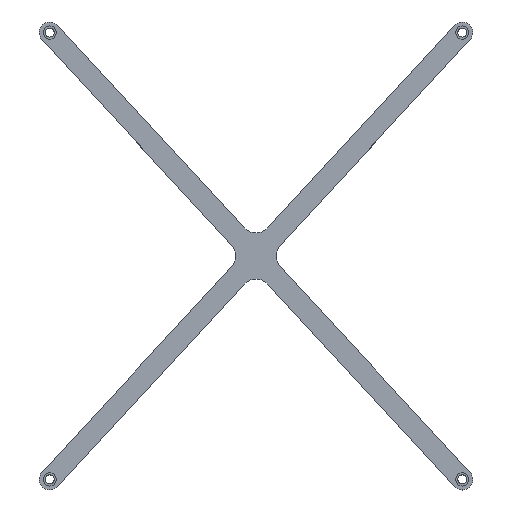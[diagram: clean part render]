
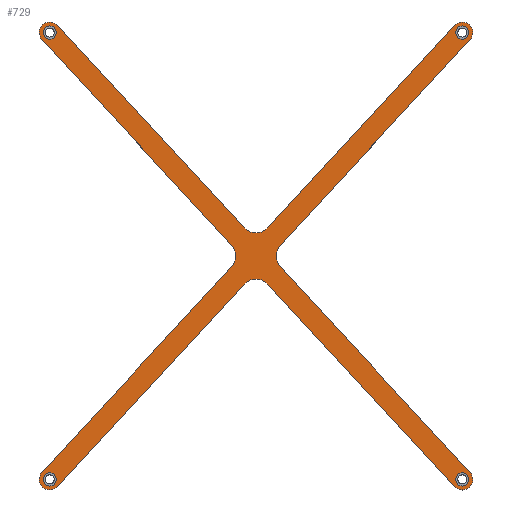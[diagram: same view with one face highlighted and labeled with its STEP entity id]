
A CAD part, top view. The second image highlights one B-rep face of the part: STEP entity #729.
In plain terms, the highlighted planar face has unit normal (0, 0, 1).
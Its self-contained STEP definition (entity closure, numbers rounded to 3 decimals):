
#107=CARTESIAN_POINT('',(-6.804,0.,2.));
#108=DIRECTION('',(0.,0.,-1.));
#109=DIRECTION('',(0.735,0.678,0.));
#110=AXIS2_PLACEMENT_3D('',#107,#108,#109);
#116=DIRECTION('',(-0.678,-0.735,0.));
#117=VECTOR('',#116,52.883);
#118=CARTESIAN_POINT('',(-4.599,-2.035,2.));
#119=LINE('',#118,#117);
#120=DIRECTION('',(0.678,-0.735,0.));
#121=VECTOR('',#120,52.883);
#122=CARTESIAN_POINT('',(-40.469,40.893,2.));
#123=LINE('',#122,#121);
#124=CARTESIAN_POINT('',(-38.999,42.25,2.));
#125=DIRECTION('',(0.,0.,1.));
#126=DIRECTION('',(0.735,0.678,0.));
#127=AXIS2_PLACEMENT_3D('',#124,#125,#126);
#129=DIRECTION('',(-0.678,0.735,0.));
#130=VECTOR('',#129,52.081);
#131=CARTESIAN_POINT('',(-2.204,5.337,2.));
#132=LINE('',#131,#130);
#133=DIRECTION('',(-0.678,-0.735,0.));
#134=VECTOR('',#133,52.082);
#135=CARTESIAN_POINT('',(37.531,43.607,2.));
#136=LINE('',#135,#134);
#137=CARTESIAN_POINT('',(39.001,42.25,2.));
#138=DIRECTION('',(0.,0.,1.));
#139=DIRECTION('',(0.735,-0.678,0.));
#140=AXIS2_PLACEMENT_3D('',#137,#138,#139);
#142=DIRECTION('',(0.678,0.735,0.));
#143=VECTOR('',#142,52.883);
#144=CARTESIAN_POINT('',(4.6,2.035,2.));
#145=LINE('',#144,#143);
#146=DIRECTION('',(-0.678,0.735,0.));
#147=VECTOR('',#146,52.883);
#148=CARTESIAN_POINT('',(40.47,-40.893,2.));
#149=LINE('',#148,#147);
#150=CARTESIAN_POINT('',(39.,-42.25,2.));
#151=DIRECTION('',(0.,0.,1.));
#152=DIRECTION('',(-0.735,-0.678,0.));
#153=AXIS2_PLACEMENT_3D('',#150,#151,#152);
#155=DIRECTION('',(0.678,-0.735,0.));
#156=VECTOR('',#155,52.082);
#157=CARTESIAN_POINT('',(2.204,-5.337,2.));
#158=LINE('',#157,#156);
#159=DIRECTION('',(0.678,0.735,0.));
#160=VECTOR('',#159,52.081);
#161=CARTESIAN_POINT('',(-37.53,-43.606,2.));
#162=LINE('',#161,#160);
#163=CARTESIAN_POINT('',(-39.,-42.249,2.));
#164=DIRECTION('',(0.,0.,1.));
#165=DIRECTION('',(-0.735,0.678,0.));
#166=AXIS2_PLACEMENT_3D('',#163,#164,#165);
#168=CARTESIAN_POINT('',(39.,42.25,2.));
#169=DIRECTION('',(0.,0.,-1.));
#170=DIRECTION('',(-1.,0.,0.));
#171=AXIS2_PLACEMENT_3D('',#168,#169,#170);
#173=CARTESIAN_POINT('',(39.,42.25,2.));
#174=DIRECTION('',(0.,0.,-1.));
#175=DIRECTION('',(1.,0.,0.));
#176=AXIS2_PLACEMENT_3D('',#173,#174,#175);
#178=CARTESIAN_POINT('',(-39.,42.25,2.));
#179=DIRECTION('',(0.,0.,-1.));
#180=DIRECTION('',(-1.,0.,0.));
#181=AXIS2_PLACEMENT_3D('',#178,#179,#180);
#183=CARTESIAN_POINT('',(-39.,42.25,2.));
#184=DIRECTION('',(0.,0.,-1.));
#185=DIRECTION('',(1.,0.,0.));
#186=AXIS2_PLACEMENT_3D('',#183,#184,#185);
#188=CARTESIAN_POINT('',(39.,-42.25,2.));
#189=DIRECTION('',(0.,0.,-1.));
#190=DIRECTION('',(-1.,0.,0.));
#191=AXIS2_PLACEMENT_3D('',#188,#189,#190);
#193=CARTESIAN_POINT('',(39.,-42.25,2.));
#194=DIRECTION('',(0.,0.,-1.));
#195=DIRECTION('',(1.,0.,0.));
#196=AXIS2_PLACEMENT_3D('',#193,#194,#195);
#198=CARTESIAN_POINT('',(-39.,-42.25,2.));
#199=DIRECTION('',(0.,0.,-1.));
#200=DIRECTION('',(-1.,0.,0.));
#201=AXIS2_PLACEMENT_3D('',#198,#199,#200);
#203=CARTESIAN_POINT('',(-39.,-42.25,2.));
#204=DIRECTION('',(0.,0.,-1.));
#205=DIRECTION('',(1.,0.,0.));
#206=AXIS2_PLACEMENT_3D('',#203,#204,#205);
#221=CARTESIAN_POINT('',(0.,7.372,2.));
#222=DIRECTION('',(0.,0.,-1.));
#223=DIRECTION('',(0.735,-0.678,0.));
#224=AXIS2_PLACEMENT_3D('',#221,#222,#223);
#247=CARTESIAN_POINT('',(6.805,0.,2.));
#248=DIRECTION('',(0.,0.,-1.));
#249=DIRECTION('',(-0.735,-0.678,0.));
#250=AXIS2_PLACEMENT_3D('',#247,#248,#249);
#273=CARTESIAN_POINT('',(0.,-7.372,2.));
#274=DIRECTION('',(0.,0.,-1.));
#275=DIRECTION('',(-0.735,0.678,0.));
#276=AXIS2_PLACEMENT_3D('',#273,#274,#275);
#450=CARTESIAN_POINT('',(-37.53,43.607,2.));
#451=CARTESIAN_POINT('',(-40.469,40.893,2.));
#452=VERTEX_POINT('',#450);
#453=VERTEX_POINT('',#451);
#454=CARTESIAN_POINT('',(-40.47,-40.893,2.));
#455=CARTESIAN_POINT('',(-37.53,-43.606,2.));
#456=VERTEX_POINT('',#454);
#457=VERTEX_POINT('',#455);
#458=CARTESIAN_POINT('',(37.53,-43.607,2.));
#459=CARTESIAN_POINT('',(40.47,-40.893,2.));
#460=VERTEX_POINT('',#458);
#461=VERTEX_POINT('',#459);
#462=CARTESIAN_POINT('',(40.47,40.893,2.));
#463=CARTESIAN_POINT('',(37.531,43.607,2.));
#464=VERTEX_POINT('',#462);
#465=VERTEX_POINT('',#463);
#467=CARTESIAN_POINT('',(-2.204,5.337,2.));
#469=VERTEX_POINT('',#467);
#471=CARTESIAN_POINT('',(2.204,5.337,2.));
#473=VERTEX_POINT('',#471);
#475=CARTESIAN_POINT('',(-4.599,-2.035,2.));
#477=VERTEX_POINT('',#475);
#479=CARTESIAN_POINT('',(-4.599,2.035,2.));
#481=VERTEX_POINT('',#479);
#483=CARTESIAN_POINT('',(4.6,2.035,2.));
#485=VERTEX_POINT('',#483);
#487=CARTESIAN_POINT('',(4.6,-2.035,2.));
#489=VERTEX_POINT('',#487);
#491=CARTESIAN_POINT('',(2.204,-5.337,2.));
#493=VERTEX_POINT('',#491);
#495=CARTESIAN_POINT('',(-2.204,-5.337,2.));
#497=VERTEX_POINT('',#495);
#518=CARTESIAN_POINT('',(37.75,42.25,2.));
#519=CARTESIAN_POINT('',(40.25,42.25,2.));
#520=VERTEX_POINT('',#518);
#521=VERTEX_POINT('',#519);
#530=CARTESIAN_POINT('',(-40.25,42.25,2.));
#531=CARTESIAN_POINT('',(-37.75,42.25,2.));
#532=VERTEX_POINT('',#530);
#533=VERTEX_POINT('',#531);
#542=CARTESIAN_POINT('',(37.75,-42.25,2.));
#543=CARTESIAN_POINT('',(40.25,-42.25,2.));
#544=VERTEX_POINT('',#542);
#545=VERTEX_POINT('',#543);
#554=CARTESIAN_POINT('',(-40.25,-42.25,2.));
#555=CARTESIAN_POINT('',(-37.75,-42.25,2.));
#556=VERTEX_POINT('',#554);
#557=VERTEX_POINT('',#555);
#669=CARTESIAN_POINT('',(0.,0.,2.));
#670=DIRECTION('',(0.,0.,1.));
#671=DIRECTION('',(1.,0.,0.));
#672=AXIS2_PLACEMENT_3D('',#669,#670,#671);
#673=PLANE('',#672);
#674=ORIENTED_EDGE('',*,*,#661,.F.);
#675=ORIENTED_EDGE('',*,*,#650,.F.);
#676=ORIENTED_EDGE('',*,*,#636,.F.);
#678=ORIENTED_EDGE('',*,*,#677,.F.);
#680=ORIENTED_EDGE('',*,*,#679,.F.);
#682=ORIENTED_EDGE('',*,*,#681,.F.);
#684=ORIENTED_EDGE('',*,*,#683,.F.);
#686=ORIENTED_EDGE('',*,*,#685,.F.);
#688=ORIENTED_EDGE('',*,*,#687,.F.);
#690=ORIENTED_EDGE('',*,*,#689,.F.);
#692=ORIENTED_EDGE('',*,*,#691,.F.);
#694=ORIENTED_EDGE('',*,*,#693,.F.);
#696=ORIENTED_EDGE('',*,*,#695,.F.);
#698=ORIENTED_EDGE('',*,*,#697,.F.);
#700=ORIENTED_EDGE('',*,*,#699,.F.);
#702=ORIENTED_EDGE('',*,*,#701,.F.);
#703=EDGE_LOOP('',(#674,#675,#676,#678,#680,#682,#684,#686,#688,#690,#692,#694,
#696,#698,#700,#702));
#704=FACE_OUTER_BOUND('',#703,.F.);
#706=ORIENTED_EDGE('',*,*,#705,.F.);
#708=ORIENTED_EDGE('',*,*,#707,.F.);
#709=EDGE_LOOP('',(#706,#708));
#710=FACE_BOUND('',#709,.F.);
#712=ORIENTED_EDGE('',*,*,#711,.F.);
#714=ORIENTED_EDGE('',*,*,#713,.F.);
#715=EDGE_LOOP('',(#712,#714));
#716=FACE_BOUND('',#715,.F.);
#718=ORIENTED_EDGE('',*,*,#717,.F.);
#720=ORIENTED_EDGE('',*,*,#719,.F.);
#721=EDGE_LOOP('',(#718,#720));
#722=FACE_BOUND('',#721,.F.);
#724=ORIENTED_EDGE('',*,*,#723,.F.);
#726=ORIENTED_EDGE('',*,*,#725,.F.);
#727=EDGE_LOOP('',(#724,#726));
#728=FACE_BOUND('',#727,.F.);
#729=ADVANCED_FACE('',(#704,#710,#716,#722,#728),#673,.T.);
#111=CIRCLE('',#110,3.);
#128=CIRCLE('',#127,2.);
#141=CIRCLE('',#140,2.);
#154=CIRCLE('',#153,2.);
#167=CIRCLE('',#166,2.);
#172=CIRCLE('',#171,1.25);
#177=CIRCLE('',#176,1.25);
#182=CIRCLE('',#181,1.25);
#187=CIRCLE('',#186,1.25);
#192=CIRCLE('',#191,1.25);
#197=CIRCLE('',#196,1.25);
#202=CIRCLE('',#201,1.25);
#207=CIRCLE('',#206,1.25);
#225=CIRCLE('',#224,3.);
#251=CIRCLE('',#250,3.);
#277=CIRCLE('',#276,3.);
#636=EDGE_CURVE('',#453,#481,#123,.T.);
#650=EDGE_CURVE('',#481,#477,#111,.T.);
#661=EDGE_CURVE('',#477,#456,#119,.T.);
#677=EDGE_CURVE('',#452,#453,#128,.T.);
#679=EDGE_CURVE('',#469,#452,#132,.T.);
#681=EDGE_CURVE('',#473,#469,#225,.T.);
#683=EDGE_CURVE('',#465,#473,#136,.T.);
#685=EDGE_CURVE('',#464,#465,#141,.T.);
#687=EDGE_CURVE('',#485,#464,#145,.T.);
#689=EDGE_CURVE('',#489,#485,#251,.T.);
#691=EDGE_CURVE('',#461,#489,#149,.T.);
#693=EDGE_CURVE('',#460,#461,#154,.T.);
#695=EDGE_CURVE('',#493,#460,#158,.T.);
#697=EDGE_CURVE('',#497,#493,#277,.T.);
#699=EDGE_CURVE('',#457,#497,#162,.T.);
#701=EDGE_CURVE('',#456,#457,#167,.T.);
#705=EDGE_CURVE('',#520,#521,#172,.T.);
#707=EDGE_CURVE('',#521,#520,#177,.T.);
#711=EDGE_CURVE('',#532,#533,#182,.T.);
#713=EDGE_CURVE('',#533,#532,#187,.T.);
#717=EDGE_CURVE('',#544,#545,#192,.T.);
#719=EDGE_CURVE('',#545,#544,#197,.T.);
#723=EDGE_CURVE('',#556,#557,#202,.T.);
#725=EDGE_CURVE('',#557,#556,#207,.T.);
